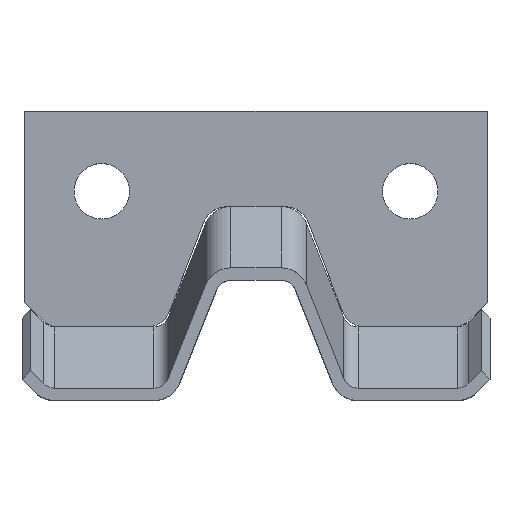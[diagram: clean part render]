
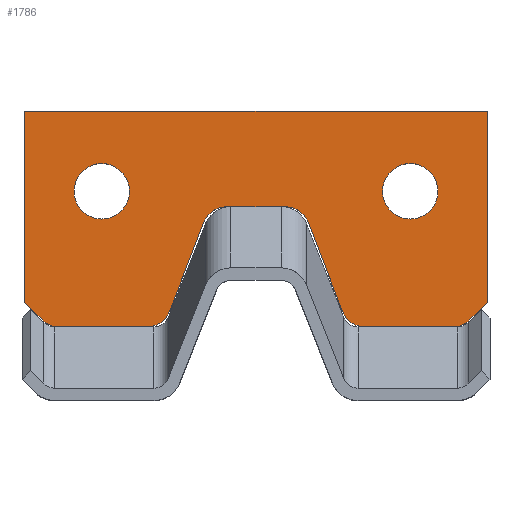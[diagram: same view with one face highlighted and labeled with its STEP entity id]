
A CAD part, top view. The second image highlights one B-rep face of the part: STEP entity #1786.
In plain terms, the highlighted planar face has unit normal (0, 0, 1).
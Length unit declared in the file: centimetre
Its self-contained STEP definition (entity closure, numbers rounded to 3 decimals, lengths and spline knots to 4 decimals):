
#86=FACE_BOUND('',#203,.T.);
#87=FACE_BOUND('',#204,.T.);
#94=FACE_OUTER_BOUND('',#202,.T.);
#202=EDGE_LOOP('',(#1188,#1189,#1190,#1191,#1192,#1193,#1194,#1195,#1196,
#1197,#1198,#1199,#1200,#1201,#1202,#1203,#1204,#1205));
#203=EDGE_LOOP('',(#1206));
#204=EDGE_LOOP('',(#1207));
#318=CIRCLE('',#1897,0.8);
#319=CIRCLE('',#1898,0.8);
#320=CIRCLE('',#1899,0.8);
#321=CIRCLE('',#1900,0.8);
#322=CIRCLE('',#1901,0.8);
#323=CIRCLE('',#1902,0.8);
#324=CIRCLE('',#1903,0.9);
#325=CIRCLE('',#1904,0.9);
#362=LINE('',#2630,#562);
#363=LINE('',#2634,#563);
#364=LINE('',#2638,#564);
#365=LINE('',#2642,#565);
#366=LINE('',#2644,#566);
#367=LINE('',#2646,#567);
#368=LINE('',#2648,#568);
#369=LINE('',#2650,#569);
#370=LINE('',#2654,#570);
#371=LINE('',#2658,#571);
#372=LINE('',#2662,#572);
#373=LINE('',#2663,#573);
#562=VECTOR('',#2076,0.1);
#563=VECTOR('',#2079,0.1);
#564=VECTOR('',#2082,0.1);
#565=VECTOR('',#2085,0.1);
#566=VECTOR('',#2086,0.1);
#567=VECTOR('',#2087,0.1);
#568=VECTOR('',#2088,0.1);
#569=VECTOR('',#2089,0.1);
#570=VECTOR('',#2092,0.1);
#571=VECTOR('',#2095,0.1);
#572=VECTOR('',#2098,0.1);
#573=VECTOR('',#2099,0.1);
#762=VERTEX_POINT('',#2628);
#763=VERTEX_POINT('',#2629);
#764=VERTEX_POINT('',#2631);
#765=VERTEX_POINT('',#2633);
#766=VERTEX_POINT('',#2635);
#767=VERTEX_POINT('',#2637);
#768=VERTEX_POINT('',#2639);
#769=VERTEX_POINT('',#2641);
#770=VERTEX_POINT('',#2643);
#771=VERTEX_POINT('',#2645);
#772=VERTEX_POINT('',#2647);
#773=VERTEX_POINT('',#2649);
#774=VERTEX_POINT('',#2651);
#775=VERTEX_POINT('',#2653);
#776=VERTEX_POINT('',#2655);
#777=VERTEX_POINT('',#2657);
#778=VERTEX_POINT('',#2659);
#779=VERTEX_POINT('',#2661);
#780=VERTEX_POINT('',#2664);
#781=VERTEX_POINT('',#2666);
#920=EDGE_CURVE('',#762,#763,#362,.T.);
#921=EDGE_CURVE('',#763,#764,#318,.T.);
#922=EDGE_CURVE('',#764,#765,#363,.T.);
#923=EDGE_CURVE('',#765,#766,#319,.T.);
#924=EDGE_CURVE('',#767,#766,#364,.T.);
#925=EDGE_CURVE('',#767,#768,#320,.T.);
#926=EDGE_CURVE('',#768,#769,#365,.T.);
#927=EDGE_CURVE('',#769,#770,#366,.T.);
#928=EDGE_CURVE('',#770,#771,#367,.T.);
#929=EDGE_CURVE('',#771,#772,#368,.T.);
#930=EDGE_CURVE('',#772,#773,#369,.T.);
#931=EDGE_CURVE('',#773,#774,#321,.T.);
#932=EDGE_CURVE('',#775,#774,#370,.T.);
#933=EDGE_CURVE('',#775,#776,#322,.T.);
#934=EDGE_CURVE('',#776,#777,#371,.T.);
#935=EDGE_CURVE('',#777,#778,#323,.T.);
#936=EDGE_CURVE('',#778,#779,#372,.T.);
#937=EDGE_CURVE('',#762,#779,#373,.T.);
#938=EDGE_CURVE('',#780,#780,#324,.T.);
#939=EDGE_CURVE('',#781,#781,#325,.T.);
#1188=ORIENTED_EDGE('',*,*,#920,.T.);
#1189=ORIENTED_EDGE('',*,*,#921,.T.);
#1190=ORIENTED_EDGE('',*,*,#922,.T.);
#1191=ORIENTED_EDGE('',*,*,#923,.T.);
#1192=ORIENTED_EDGE('',*,*,#924,.F.);
#1193=ORIENTED_EDGE('',*,*,#925,.T.);
#1194=ORIENTED_EDGE('',*,*,#926,.T.);
#1195=ORIENTED_EDGE('',*,*,#927,.T.);
#1196=ORIENTED_EDGE('',*,*,#928,.T.);
#1197=ORIENTED_EDGE('',*,*,#929,.T.);
#1198=ORIENTED_EDGE('',*,*,#930,.T.);
#1199=ORIENTED_EDGE('',*,*,#931,.T.);
#1200=ORIENTED_EDGE('',*,*,#932,.F.);
#1201=ORIENTED_EDGE('',*,*,#933,.T.);
#1202=ORIENTED_EDGE('',*,*,#934,.T.);
#1203=ORIENTED_EDGE('',*,*,#935,.T.);
#1204=ORIENTED_EDGE('',*,*,#936,.T.);
#1205=ORIENTED_EDGE('',*,*,#937,.F.);
#1206=ORIENTED_EDGE('',*,*,#938,.T.);
#1207=ORIENTED_EDGE('',*,*,#939,.T.);
#1724=PLANE('',#1896);
#1786=ADVANCED_FACE('',(#94,#86,#87),#1724,.T.);
#1896=AXIS2_PLACEMENT_3D('',#2627,#2074,#2075);
#1897=AXIS2_PLACEMENT_3D('',#2632,#2077,#2078);
#1898=AXIS2_PLACEMENT_3D('',#2636,#2080,#2081);
#1899=AXIS2_PLACEMENT_3D('',#2640,#2083,#2084);
#1900=AXIS2_PLACEMENT_3D('',#2652,#2090,#2091);
#1901=AXIS2_PLACEMENT_3D('',#2656,#2093,#2094);
#1902=AXIS2_PLACEMENT_3D('',#2660,#2096,#2097);
#1903=AXIS2_PLACEMENT_3D('',#2665,#2100,#2101);
#1904=AXIS2_PLACEMENT_3D('',#2667,#2102,#2103);
#2074=DIRECTION('center_axis',(0.,0.,1.));
#2075=DIRECTION('ref_axis',(1.,0.,0.));
#2076=DIRECTION('',(1.,0.,0.));
#2077=DIRECTION('center_axis',(0.,0.,-1.));
#2078=DIRECTION('ref_axis',(0.566,0.824,0.));
#2079=DIRECTION('',(0.359,-0.933,0.));
#2080=DIRECTION('center_axis',(0.,0.,1.));
#2081=DIRECTION('ref_axis',(-0.566,-0.824,0.));
#2082=DIRECTION('',(-1.,0.,0.));
#2083=DIRECTION('center_axis',(0.,0.,1.));
#2084=DIRECTION('ref_axis',(0.383,-0.924,0.));
#2085=DIRECTION('',(0.707,0.707,0.));
#2086=DIRECTION('',(0.,1.,0.));
#2087=DIRECTION('',(-1.,0.,0.));
#2088=DIRECTION('',(0.,-1.,0.));
#2089=DIRECTION('',(0.707,-0.707,0.));
#2090=DIRECTION('center_axis',(0.,0.,1.));
#2091=DIRECTION('ref_axis',(-0.383,-0.924,0.));
#2092=DIRECTION('',(-1.,0.,0.));
#2093=DIRECTION('center_axis',(0.,0.,1.));
#2094=DIRECTION('ref_axis',(0.566,-0.824,0.));
#2095=DIRECTION('',(0.359,0.933,0.));
#2096=DIRECTION('center_axis',(0.,0.,-1.));
#2097=DIRECTION('ref_axis',(-0.566,0.824,0.));
#2098=DIRECTION('',(1.,0.,0.));
#2099=DIRECTION('',(-1.,0.,0.));
#2100=DIRECTION('center_axis',(0.,0.,-1.));
#2101=DIRECTION('ref_axis',(1.,0.,0.));
#2102=DIRECTION('center_axis',(0.,0.,-1.));
#2103=DIRECTION('ref_axis',(1.,0.,0.));
#2627=CARTESIAN_POINT('Origin',(-22.4958,280.4396,1.));
#2628=CARTESIAN_POINT('',(-25.1851,279.9396,1.));
#2629=CARTESIAN_POINT('',(-25.0452,279.9396,1.));
#2630=CARTESIAN_POINT('',(-26.9463,279.9396,1.));
#2631=CARTESIAN_POINT('',(-24.2985,279.4268,1.));
#2632=CARTESIAN_POINT('Origin',(-25.0452,279.1396,1.));
#2633=CARTESIAN_POINT('',(-23.193,276.5524,1.));
#2634=CARTESIAN_POINT('',(-24.2985,279.4268,1.));
#2635=CARTESIAN_POINT('',(-22.4463,276.0396,1.));
#2636=CARTESIAN_POINT('Origin',(-22.4463,276.8396,1.));
#2637=CARTESIAN_POINT('',(-19.6271,276.0396,1.));
#2638=CARTESIAN_POINT('',(-22.5904,276.0396,1.));
#2639=CARTESIAN_POINT('',(-19.0614,276.2739,1.));
#2640=CARTESIAN_POINT('Origin',(-19.6271,276.8396,1.));
#2641=CARTESIAN_POINT('',(-18.4958,276.8396,1.));
#2642=CARTESIAN_POINT('',(-19.0614,276.2739,1.));
#2643=CARTESIAN_POINT('',(-18.4958,283.0396,1.));
#2644=CARTESIAN_POINT('',(-18.4958,276.8396,1.));
#2645=CARTESIAN_POINT('',(-33.4958,283.0396,1.));
#2646=CARTESIAN_POINT('',(-18.4958,283.0396,1.));
#2647=CARTESIAN_POINT('',(-33.4958,276.8396,1.));
#2648=CARTESIAN_POINT('',(-33.4958,283.0396,1.));
#2649=CARTESIAN_POINT('',(-32.9301,276.2739,1.));
#2650=CARTESIAN_POINT('',(-33.4958,276.8396,1.));
#2651=CARTESIAN_POINT('',(-32.3644,276.0396,1.));
#2652=CARTESIAN_POINT('Origin',(-32.3644,276.8396,1.));
#2653=CARTESIAN_POINT('',(-29.5452,276.0396,1.));
#2654=CARTESIAN_POINT('',(-27.5084,276.0396,1.));
#2655=CARTESIAN_POINT('',(-28.7985,276.5524,1.));
#2656=CARTESIAN_POINT('Origin',(-29.5452,276.8396,1.));
#2657=CARTESIAN_POINT('',(-27.693,279.4268,1.));
#2658=CARTESIAN_POINT('',(-28.7985,276.5524,1.));
#2659=CARTESIAN_POINT('',(-26.9463,279.9396,1.));
#2660=CARTESIAN_POINT('Origin',(-26.9463,279.1396,1.));
#2661=CARTESIAN_POINT('',(-26.8064,279.9396,1.));
#2662=CARTESIAN_POINT('',(-26.9463,279.9396,1.));
#2663=CARTESIAN_POINT('',(-24.6511,279.9396,1.));
#2664=CARTESIAN_POINT('',(-31.8958,280.4396,1.));
#2665=CARTESIAN_POINT('Origin',(-30.9958,280.4396,1.));
#2666=CARTESIAN_POINT('',(-21.8958,280.4396,1.));
#2667=CARTESIAN_POINT('Origin',(-20.9958,280.4396,1.));
